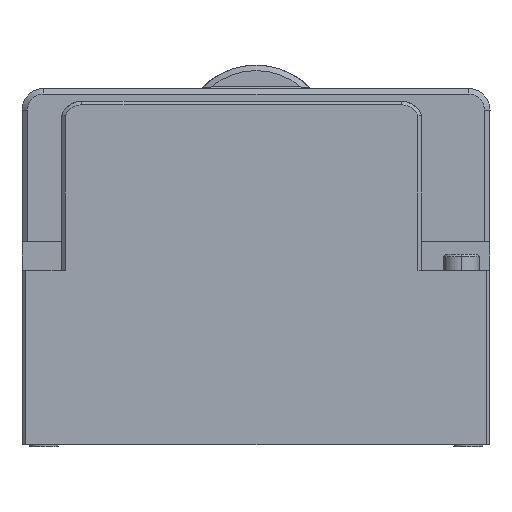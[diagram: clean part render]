
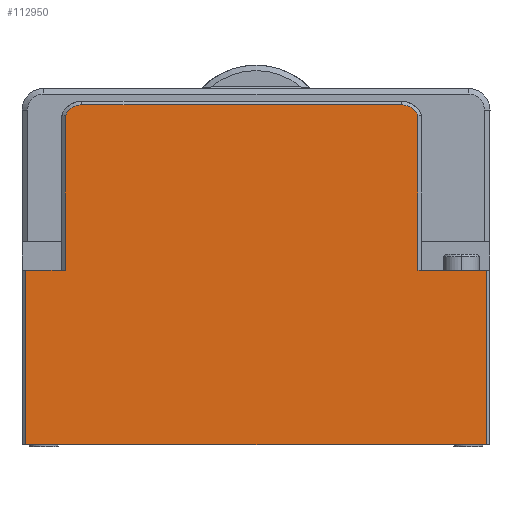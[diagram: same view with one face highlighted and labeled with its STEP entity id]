
A CAD part, left-side view. The second image highlights one B-rep face of the part: STEP entity #112950.
In plain terms, the highlighted planar face has unit normal (-1, 0, 0).
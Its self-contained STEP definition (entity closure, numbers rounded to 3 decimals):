
#10979=CARTESIAN_POINT('',(-113.1,52.926,43.));
#10981=DIRECTION('',(0.,1.,0.));
#10982=VECTOR('',#10981,0.074);
#10983=CARTESIAN_POINT('',(-113.1,52.926,43.));
#10984=LINE('',#10983,#10982);
#14387=CARTESIAN_POINT('',(-113.1,48.343,41.));
#14388=DIRECTION('',(1.,0.,0.));
#14389=DIRECTION('',(0.,0.917,0.4));
#14390=AXIS2_PLACEMENT_3D('',#14387,#14388,#14389);
#14392=DIRECTION('',(0.,-1.,0.));
#14393=VECTOR('',#14392,88.686);
#14394=CARTESIAN_POINT('',(-113.1,48.343,46.));
#14395=LINE('',#14394,#14393);
#14396=CARTESIAN_POINT('',(-113.1,-40.343,41.));
#14397=DIRECTION('',(1.,0.,0.));
#14398=DIRECTION('',(0.,0.,1.));
#14399=AXIS2_PLACEMENT_3D('',#14396,#14397,#14398);
#14401=DIRECTION('',(0.,-1.,0.));
#14402=VECTOR('',#14401,19.);
#14403=CARTESIAN_POINT('',(-113.1,-45.,0.));
#14404=LINE('',#14403,#14402);
#14405=DIRECTION('',(0.,0.,1.));
#14406=VECTOR('',#14405,48.5);
#14407=CARTESIAN_POINT('',(-113.1,64.,-48.5));
#14408=LINE('',#14407,#14406);
#14409=DIRECTION('',(0.,-1.,0.));
#14410=VECTOR('',#14409,11.);
#14411=CARTESIAN_POINT('',(-113.1,64.,0.));
#14412=LINE('',#14411,#14410);
#14413=DIRECTION('',(0.,0.,1.));
#14414=VECTOR('',#14413,43.);
#14415=CARTESIAN_POINT('',(-113.1,53.,0.));
#14416=LINE('',#14415,#14414);
#14426=CARTESIAN_POINT('',(-113.1,-44.926,43.));
#14437=DIRECTION('',(0.,1.,0.));
#14438=VECTOR('',#14437,0.074);
#14439=CARTESIAN_POINT('',(-113.1,-45.,43.));
#14440=LINE('',#14439,#14438);
#14441=DIRECTION('',(0.,0.,1.));
#14442=VECTOR('',#14441,43.);
#14443=CARTESIAN_POINT('',(-113.1,-45.,0.));
#14444=LINE('',#14443,#14442);
#14445=DIRECTION('',(0.,0.,1.));
#14446=VECTOR('',#14445,48.5);
#14447=CARTESIAN_POINT('',(-113.1,-64.,-48.5));
#14448=LINE('',#14447,#14446);
#14493=DIRECTION('',(0.,-1.,0.));
#14494=VECTOR('',#14493,128.);
#14495=CARTESIAN_POINT('',(-113.1,64.,-48.5));
#14496=LINE('',#14495,#14494);
#76026=CARTESIAN_POINT('',(-113.1,-64.,0.));
#76027=VERTEX_POINT('',#76026);
#76028=CARTESIAN_POINT('',(-113.1,64.,0.));
#76030=VERTEX_POINT('',#76028);
#79162=CARTESIAN_POINT('',(-113.1,64.,-48.5));
#79163=VERTEX_POINT('',#79162);
#79164=CARTESIAN_POINT('',(-113.1,-64.,-48.5));
#79165=VERTEX_POINT('',#79164);
#84892=CARTESIAN_POINT('',(-113.1,-45.,0.));
#84893=VERTEX_POINT('',#84892);
#84894=CARTESIAN_POINT('',(-113.1,53.,0.));
#84896=VERTEX_POINT('',#84894);
#85250=CARTESIAN_POINT('',(-113.1,-45.,43.));
#85251=VERTEX_POINT('',#85250);
#85252=CARTESIAN_POINT('',(-113.1,53.,43.));
#85253=VERTEX_POINT('',#85252);
#85683=CARTESIAN_POINT('',(-113.1,-40.343,46.));
#85684=VERTEX_POINT('',#85683);
#85685=CARTESIAN_POINT('',(-113.1,48.343,46.));
#85686=VERTEX_POINT('',#85685);
#87300=VERTEX_POINT('',#14426);
#87302=VERTEX_POINT('',#10979);
#112925=CARTESIAN_POINT('',(-113.1,65.,0.));
#112926=DIRECTION('',(-1.,0.,0.));
#112927=DIRECTION('',(0.,-1.,0.));
#112928=AXIS2_PLACEMENT_3D('',#112925,#112926,#112927);
#112929=PLANE('',#112928);
#112930=ORIENTED_EDGE('',*,*,#109151,.F.);
#112931=ORIENTED_EDGE('',*,*,#109167,.T.);
#112932=ORIENTED_EDGE('',*,*,#112916,.T.);
#112934=ORIENTED_EDGE('',*,*,#112933,.T.);
#112936=ORIENTED_EDGE('',*,*,#112935,.F.);
#112938=ORIENTED_EDGE('',*,*,#112937,.F.);
#112939=ORIENTED_EDGE('',*,*,#99048,.T.);
#112941=ORIENTED_EDGE('',*,*,#112940,.F.);
#112943=ORIENTED_EDGE('',*,*,#112942,.F.);
#112945=ORIENTED_EDGE('',*,*,#112944,.T.);
#112946=ORIENTED_EDGE('',*,*,#109107,.T.);
#112947=ORIENTED_EDGE('',*,*,#109136,.T.);
#112948=EDGE_LOOP('',(#112930,#112931,#112932,#112934,#112936,#112938,#112939,
#112941,#112943,#112945,#112946,#112947));
#112949=FACE_OUTER_BOUND('',#112948,.F.);
#112950=ADVANCED_FACE('',(#112949),#112929,.T.);
#14391=CIRCLE('',#14390,5.);
#14400=CIRCLE('',#14399,5.);
#99048=EDGE_CURVE('',#84893,#76027,#14404,.T.);
#109107=EDGE_CURVE('',#76030,#84896,#14412,.T.);
#109136=EDGE_CURVE('',#84896,#85253,#14416,.T.);
#109151=EDGE_CURVE('',#87302,#85253,#10984,.T.);
#109167=EDGE_CURVE('',#87302,#85686,#14391,.T.);
#112916=EDGE_CURVE('',#85686,#85684,#14395,.T.);
#112933=EDGE_CURVE('',#85684,#87300,#14400,.T.);
#112935=EDGE_CURVE('',#85251,#87300,#14440,.T.);
#112937=EDGE_CURVE('',#84893,#85251,#14444,.T.);
#112940=EDGE_CURVE('',#79165,#76027,#14448,.T.);
#112942=EDGE_CURVE('',#79163,#79165,#14496,.T.);
#112944=EDGE_CURVE('',#79163,#76030,#14408,.T.);
